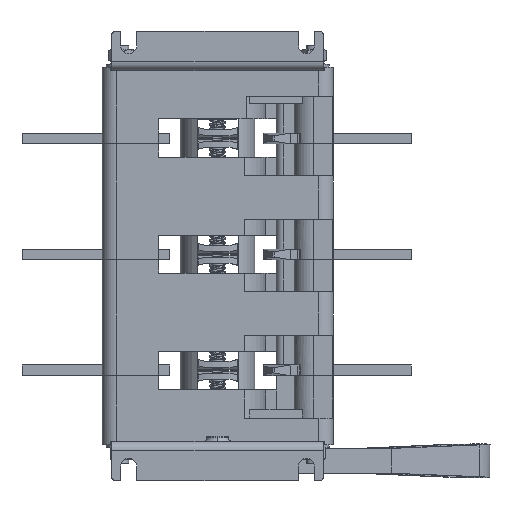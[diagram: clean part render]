
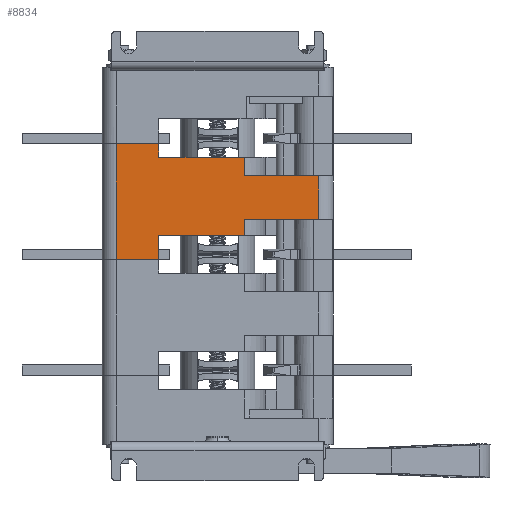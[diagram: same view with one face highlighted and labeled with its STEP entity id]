
A CAD part, front view. The second image highlights one B-rep face of the part: STEP entity #8834.
In plain terms, the highlighted planar face has unit normal (0, -1, 0).
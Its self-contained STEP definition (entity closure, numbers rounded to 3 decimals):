
#74 = EDGE_CURVE ( 'NONE', #27884, #33105, #32475, .T. ) ;
#85 = FACE_OUTER_BOUND ( 'NONE', #33511, .T. ) ;
#1124 = CARTESIAN_POINT ( 'NONE',  ( 15., -27., 25. ) ) ;
#1943 = VERTEX_POINT ( 'NONE', #38404 ) ;
#2307 = VERTEX_POINT ( 'NONE', #12434 ) ;
#3064 = VERTEX_POINT ( 'NONE', #1124 ) ;
#3675 = CARTESIAN_POINT ( 'NONE',  ( 15., -27., -10. ) ) ;
#3851 = CARTESIAN_POINT ( 'NONE',  ( 57., -27., 25. ) ) ;
#5060 = ORIENTED_EDGE ( 'NONE', *, *, #74, .T. ) ;
#5082 = CARTESIAN_POINT ( 'NONE',  ( 57., -27., -10. ) ) ;
#6474 = VERTEX_POINT ( 'NONE', #3675 ) ;
#6643 = DIRECTION ( 'NONE',  ( 0., 0., 1. ) ) ;
#7580 = DIRECTION ( 'NONE',  ( -1., 0., 0. ) ) ;
#7636 = LINE ( 'NONE', #29773, #39272 ) ;
#7959 = CARTESIAN_POINT ( 'NONE',  ( -33., -27., 32.5 ) ) ;
#8834 = ADVANCED_FACE ( 'NONE', ( #85 ), #25132, .F. ) ;
#9377 = LINE ( 'NONE', #24133, #24206 ) ;
#9421 = CARTESIAN_POINT ( 'NONE',  ( 15., -27., 14.5 ) ) ;
#9548 = VECTOR ( 'NONE', #16305, 1000. ) ;
#9602 = EDGE_CURVE ( 'NONE', #25069, #18388, #39305, .T. ) ;
#9799 = VERTEX_POINT ( 'NONE', #23214 ) ;
#10051 = LINE ( 'NONE', #31334, #15364 ) ;
#10403 = EDGE_CURVE ( 'NONE', #1943, #10969, #25043, .T. ) ;
#10636 = ORIENTED_EDGE ( 'NONE', *, *, #40007, .T. ) ;
#10829 = ORIENTED_EDGE ( 'NONE', *, *, #9602, .F. ) ;
#10969 = VERTEX_POINT ( 'NONE', #5082 ) ;
#11001 = VERTEX_POINT ( 'NONE', #32631 ) ;
#11727 = LINE ( 'NONE', #31785, #12280 ) ;
#11774 = ORIENTED_EDGE ( 'NONE', *, *, #41748, .F. ) ;
#12129 = CARTESIAN_POINT ( 'NONE',  ( 15., -27., -10. ) ) ;
#12280 = VECTOR ( 'NONE', #32077, 1000. ) ;
#12398 = CARTESIAN_POINT ( 'NONE',  ( -33., -27., -32.5 ) ) ;
#12434 = CARTESIAN_POINT ( 'NONE',  ( -33., -27., 25. ) ) ;
#13721 = DIRECTION ( 'NONE',  ( 0., 0., -1. ) ) ;
#14294 = ORIENTED_EDGE ( 'NONE', *, *, #33004, .F. ) ;
#14582 = ORIENTED_EDGE ( 'NONE', *, *, #41137, .F. ) ;
#14700 = ORIENTED_EDGE ( 'NONE', *, *, #10403, .F. ) ;
#15364 = VECTOR ( 'NONE', #7580, 1000. ) ;
#16305 = DIRECTION ( 'NONE',  ( -1., 0., 0. ) ) ;
#16372 = LINE ( 'NONE', #9421, #18501 ) ;
#18093 = CARTESIAN_POINT ( 'NONE',  ( -57., -27., 25. ) ) ;
#18388 = VERTEX_POINT ( 'NONE', #7959 ) ;
#18427 = VECTOR ( 'NONE', #19216, 1000. ) ;
#18480 = LINE ( 'NONE', #12129, #31643 ) ;
#18501 = VECTOR ( 'NONE', #43074, 1000. ) ;
#19216 = DIRECTION ( 'NONE',  ( 0., 0., -1. ) ) ;
#19509 = DIRECTION ( 'NONE',  ( -1., 0., 0. ) ) ;
#19846 = VECTOR ( 'NONE', #38547, 1000. ) ;
#20531 = ORIENTED_EDGE ( 'NONE', *, *, #23469, .F. ) ;
#21644 = AXIS2_PLACEMENT_3D ( 'NONE', #18093, #31744, #21923 ) ;
#21923 = DIRECTION ( 'NONE',  ( 0., 0., 1. ) ) ;
#23214 = CARTESIAN_POINT ( 'NONE',  ( -57., -27., -32.5 ) ) ;
#23469 = EDGE_CURVE ( 'NONE', #11001, #33105, #10051, .T. ) ;
#23856 = CARTESIAN_POINT ( 'NONE',  ( 15., -27., 14.5 ) ) ;
#24133 = CARTESIAN_POINT ( 'NONE',  ( 15., -27., -19. ) ) ;
#24206 = VECTOR ( 'NONE', #34034, 1000. ) ;
#24576 = DIRECTION ( 'NONE',  ( 0., 0., 1. ) ) ;
#24855 = CARTESIAN_POINT ( 'NONE',  ( -57., -27., 32.5 ) ) ;
#25043 = LINE ( 'NONE', #3851, #39801 ) ;
#25069 = VERTEX_POINT ( 'NONE', #37999 ) ;
#25132 = PLANE ( 'NONE',  #21644 ) ;
#25681 = CARTESIAN_POINT ( 'NONE',  ( -33., -27., 32.5 ) ) ;
#26115 = ORIENTED_EDGE ( 'NONE', *, *, #43289, .F. ) ;
#26256 = EDGE_CURVE ( 'NONE', #10969, #6474, #18480, .T. ) ;
#26407 = VECTOR ( 'NONE', #26423, 1000. ) ;
#26423 = DIRECTION ( 'NONE',  ( 0., 0., -1. ) ) ;
#26677 = CARTESIAN_POINT ( 'NONE',  ( -33., -27., -19. ) ) ;
#27745 = ORIENTED_EDGE ( 'NONE', *, *, #30070, .T. ) ;
#27884 = VERTEX_POINT ( 'NONE', #12398 ) ;
#29773 = CARTESIAN_POINT ( 'NONE',  ( 15., -27., 14.5 ) ) ;
#30070 = EDGE_CURVE ( 'NONE', #25069, #9799, #32194, .T. ) ;
#31334 = CARTESIAN_POINT ( 'NONE',  ( -33., -27., -19. ) ) ;
#31643 = VECTOR ( 'NONE', #19509, 1000. ) ;
#31744 = DIRECTION ( 'NONE',  ( 0., 1., 0. ) ) ;
#31785 = CARTESIAN_POINT ( 'NONE',  ( -57., -27., 25. ) ) ;
#32077 = DIRECTION ( 'NONE',  ( 1., 0., 0. ) ) ;
#32194 = LINE ( 'NONE', #43570, #26407 ) ;
#32475 = LINE ( 'NONE', #37979, #42005 ) ;
#32631 = CARTESIAN_POINT ( 'NONE',  ( 15., -27., -19. ) ) ;
#33004 = EDGE_CURVE ( 'NONE', #18388, #2307, #36345, .T. ) ;
#33105 = VERTEX_POINT ( 'NONE', #26677 ) ;
#33511 = EDGE_LOOP ( 'NONE', ( #11774, #41427, #26115, #14294, #10829, #27745, #14582, #5060, #20531, #10636, #35851, #14700 ) ) ;
#34034 = DIRECTION ( 'NONE',  ( 0., 0., 1. ) ) ;
#34045 = VERTEX_POINT ( 'NONE', #23856 ) ;
#34411 = LINE ( 'NONE', #36495, #9548 ) ;
#35401 = EDGE_CURVE ( 'NONE', #34045, #3064, #7636, .T. ) ;
#35851 = ORIENTED_EDGE ( 'NONE', *, *, #26256, .F. ) ;
#36345 = LINE ( 'NONE', #25681, #18427 ) ;
#36495 = CARTESIAN_POINT ( 'NONE',  ( -57., -27., -32.5 ) ) ;
#37979 = CARTESIAN_POINT ( 'NONE',  ( -33., -27., -32.5 ) ) ;
#37999 = CARTESIAN_POINT ( 'NONE',  ( -57., -27., 32.5 ) ) ;
#38404 = CARTESIAN_POINT ( 'NONE',  ( 57., -27., 14.5 ) ) ;
#38547 = DIRECTION ( 'NONE',  ( 1., 0., 0. ) ) ;
#39272 = VECTOR ( 'NONE', #6643, 1000. ) ;
#39305 = LINE ( 'NONE', #24855, #19846 ) ;
#39801 = VECTOR ( 'NONE', #13721, 1000. ) ;
#40007 = EDGE_CURVE ( 'NONE', #11001, #6474, #9377, .T. ) ;
#41137 = EDGE_CURVE ( 'NONE', #27884, #9799, #34411, .T. ) ;
#41427 = ORIENTED_EDGE ( 'NONE', *, *, #35401, .T. ) ;
#41748 = EDGE_CURVE ( 'NONE', #34045, #1943, #16372, .T. ) ;
#42005 = VECTOR ( 'NONE', #24576, 1000. ) ;
#43074 = DIRECTION ( 'NONE',  ( 1., 0., 0. ) ) ;
#43289 = EDGE_CURVE ( 'NONE', #2307, #3064, #11727, .T. ) ;
#43570 = CARTESIAN_POINT ( 'NONE',  ( -57., -27., 25. ) ) ;
